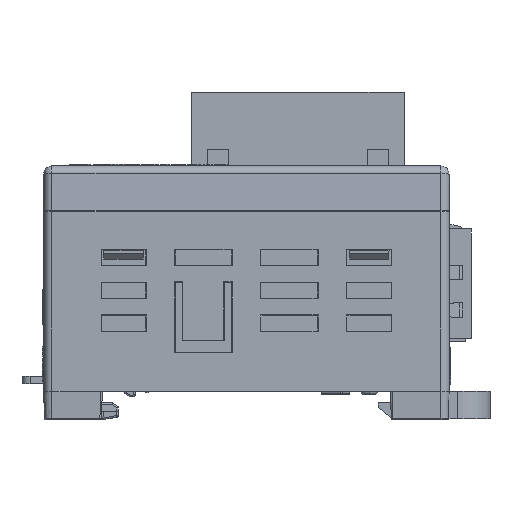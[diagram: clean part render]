
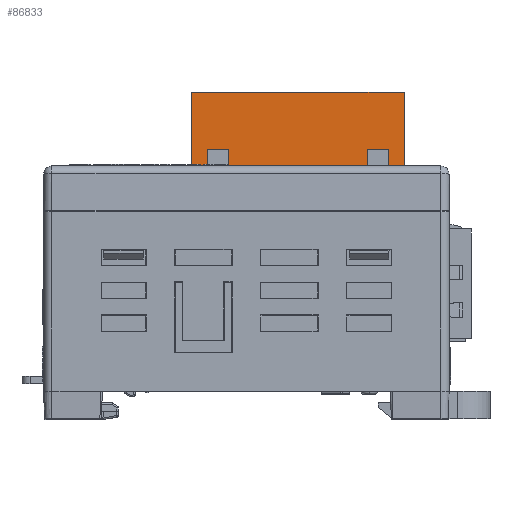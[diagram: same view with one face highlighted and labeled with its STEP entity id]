
A CAD part, left-side view. The second image highlights one B-rep face of the part: STEP entity #86833.
In plain terms, the highlighted planar face has unit normal (-1, 0, 0).
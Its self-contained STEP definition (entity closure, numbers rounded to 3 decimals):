
#495=DIRECTION('',(0.,0.,1.));
#496=VECTOR('',#495,12.5);
#497=CARTESIAN_POINT('',(-13.22,6.65,27.5));
#498=LINE('',#497,#496);
#1459=DIRECTION('',(0.,1.,0.));
#1460=VECTOR('',#1459,1.);
#1461=CARTESIAN_POINT('',(-13.22,-19.25,27.5));
#1462=LINE('',#1461,#1460);
#1475=DIRECTION('',(0.,1.,0.));
#1476=VECTOR('',#1475,1.);
#1477=CARTESIAN_POINT('',(-13.22,-13.3,27.5));
#1478=LINE('',#1477,#1476);
#1491=DIRECTION('',(0.,1.,0.));
#1492=VECTOR('',#1491,1.);
#1493=CARTESIAN_POINT('',(-13.22,-6.8,27.5));
#1494=LINE('',#1493,#1492);
#1507=DIRECTION('',(0.,1.,0.));
#1508=VECTOR('',#1507,1.);
#1509=CARTESIAN_POINT('',(-13.22,-0.3,27.5));
#1510=LINE('',#1509,#1508);
#1523=DIRECTION('',(0.,1.,0.));
#1524=VECTOR('',#1523,1.);
#1525=CARTESIAN_POINT('',(-13.22,5.65,27.5));
#1526=LINE('',#1525,#1524);
#8673=DIRECTION('',(0.,-1.,0.));
#8674=VECTOR('',#8673,0.9);
#8675=CARTESIAN_POINT('',(-13.22,-17.35,28.));
#8676=LINE('',#8675,#8674);
#8677=DIRECTION('',(0.,-1.,0.));
#8678=VECTOR('',#8677,2.6);
#8679=CARTESIAN_POINT('',(-13.22,-14.75,33.));
#8680=LINE('',#8679,#8678);
#8681=DIRECTION('',(0.,0.,1.));
#8682=VECTOR('',#8681,5.);
#8683=CARTESIAN_POINT('',(-13.22,-14.75,28.));
#8684=LINE('',#8683,#8682);
#8685=DIRECTION('',(0.,-1.,0.));
#8686=VECTOR('',#8685,1.45);
#8687=CARTESIAN_POINT('',(-13.22,-13.3,28.));
#8688=LINE('',#8687,#8686);
#8689=DIRECTION('',(0.,-1.,0.));
#8690=VECTOR('',#8689,5.5);
#8691=CARTESIAN_POINT('',(-13.22,-6.8,28.));
#8692=LINE('',#8691,#8690);
#8693=DIRECTION('',(0.,-1.,0.));
#8694=VECTOR('',#8693,5.5);
#8695=CARTESIAN_POINT('',(-13.22,-0.3,28.));
#8696=LINE('',#8695,#8694);
#8697=DIRECTION('',(0.,-1.,0.));
#8698=VECTOR('',#8697,1.45);
#8699=CARTESIAN_POINT('',(-13.22,2.15,28.));
#8700=LINE('',#8699,#8698);
#8701=DIRECTION('',(0.,-1.,0.));
#8702=VECTOR('',#8701,0.9);
#8703=CARTESIAN_POINT('',(-13.22,5.65,28.));
#8704=LINE('',#8703,#8702);
#8713=DIRECTION('',(0.,0.,1.));
#8714=VECTOR('',#8713,0.5);
#8715=CARTESIAN_POINT('',(-13.22,-18.25,27.5));
#8716=LINE('',#8715,#8714);
#8729=DIRECTION('',(0.,0.,-1.));
#8730=VECTOR('',#8729,12.5);
#8731=CARTESIAN_POINT('',(-13.22,-19.25,40.));
#8732=LINE('',#8731,#8730);
#9105=DIRECTION('',(0.,0.,-1.));
#9106=VECTOR('',#9105,5.);
#9107=CARTESIAN_POINT('',(-13.22,-17.35,33.));
#9108=LINE('',#9107,#9106);
#9441=DIRECTION('',(0.,0.,1.));
#9442=VECTOR('',#9441,5.);
#9443=CARTESIAN_POINT('',(-13.22,4.75,28.));
#9444=LINE('',#9443,#9442);
#9461=DIRECTION('',(0.,-1.,0.));
#9462=VECTOR('',#9461,2.6);
#9463=CARTESIAN_POINT('',(-13.22,4.75,33.));
#9464=LINE('',#9463,#9462);
#9469=DIRECTION('',(0.,0.,-1.));
#9470=VECTOR('',#9469,5.);
#9471=CARTESIAN_POINT('',(-13.22,2.15,33.));
#9472=LINE('',#9471,#9470);
#12565=DIRECTION('',(0.,-1.,0.));
#12566=VECTOR('',#12565,25.9);
#12567=CARTESIAN_POINT('',(-13.22,6.65,40.));
#12568=LINE('',#12567,#12566);
#12673=DIRECTION('',(0.,0.,-1.));
#12674=VECTOR('',#12673,0.5);
#12675=CARTESIAN_POINT('',(-13.22,-13.3,28.));
#12676=LINE('',#12675,#12674);
#12697=DIRECTION('',(0.,0.,1.));
#12698=VECTOR('',#12697,0.5);
#12699=CARTESIAN_POINT('',(-13.22,-12.3,27.5));
#12700=LINE('',#12699,#12698);
#12701=DIRECTION('',(0.,0.,-1.));
#12702=VECTOR('',#12701,0.5);
#12703=CARTESIAN_POINT('',(-13.22,-6.8,28.));
#12704=LINE('',#12703,#12702);
#12725=DIRECTION('',(0.,0.,1.));
#12726=VECTOR('',#12725,0.5);
#12727=CARTESIAN_POINT('',(-13.22,-5.8,27.5));
#12728=LINE('',#12727,#12726);
#12729=DIRECTION('',(0.,0.,-1.));
#12730=VECTOR('',#12729,0.5);
#12731=CARTESIAN_POINT('',(-13.22,-0.3,28.));
#12732=LINE('',#12731,#12730);
#12753=DIRECTION('',(0.,0.,1.));
#12754=VECTOR('',#12753,0.5);
#12755=CARTESIAN_POINT('',(-13.22,0.7,27.5));
#12756=LINE('',#12755,#12754);
#12757=DIRECTION('',(0.,0.,-1.));
#12758=VECTOR('',#12757,0.5);
#12759=CARTESIAN_POINT('',(-13.22,5.65,28.));
#12760=LINE('',#12759,#12758);
#60859=CARTESIAN_POINT('',(-13.22,-14.75,28.));
#60861=VERTEX_POINT('',#60859);
#60864=CARTESIAN_POINT('',(-13.22,-17.35,28.));
#60865=VERTEX_POINT('',#60864);
#60866=CARTESIAN_POINT('',(-13.22,-18.25,28.));
#60867=VERTEX_POINT('',#60866);
#60944=CARTESIAN_POINT('',(-13.22,5.65,28.));
#60945=VERTEX_POINT('',#60944);
#60946=CARTESIAN_POINT('',(-13.22,4.75,28.));
#60947=VERTEX_POINT('',#60946);
#60952=CARTESIAN_POINT('',(-13.22,2.15,28.));
#60953=VERTEX_POINT('',#60952);
#60954=CARTESIAN_POINT('',(-13.22,0.7,28.));
#60955=VERTEX_POINT('',#60954);
#60960=CARTESIAN_POINT('',(-13.22,-0.3,28.));
#60961=VERTEX_POINT('',#60960);
#60962=CARTESIAN_POINT('',(-13.22,-5.8,28.));
#60963=VERTEX_POINT('',#60962);
#60968=CARTESIAN_POINT('',(-13.22,-6.8,28.));
#60969=VERTEX_POINT('',#60968);
#60970=CARTESIAN_POINT('',(-13.22,-12.3,28.));
#60971=VERTEX_POINT('',#60970);
#60976=CARTESIAN_POINT('',(-13.22,-13.3,28.));
#60977=VERTEX_POINT('',#60976);
#61980=CARTESIAN_POINT('',(-13.22,-17.35,33.));
#61981=VERTEX_POINT('',#61980);
#61982=CARTESIAN_POINT('',(-13.22,-14.75,33.));
#61983=VERTEX_POINT('',#61982);
#61984=CARTESIAN_POINT('',(-13.22,2.15,33.));
#61985=VERTEX_POINT('',#61984);
#61986=CARTESIAN_POINT('',(-13.22,4.75,33.));
#61987=VERTEX_POINT('',#61986);
#61988=CARTESIAN_POINT('',(-13.22,6.65,40.));
#61989=CARTESIAN_POINT('',(-13.22,-19.25,40.));
#61990=VERTEX_POINT('',#61988);
#61991=VERTEX_POINT('',#61989);
#70600=CARTESIAN_POINT('',(-13.22,-19.25,27.5));
#70601=CARTESIAN_POINT('',(-13.22,-18.25,27.5));
#70602=VERTEX_POINT('',#70600);
#70603=VERTEX_POINT('',#70601);
#70604=CARTESIAN_POINT('',(-13.22,-13.3,27.5));
#70605=CARTESIAN_POINT('',(-13.22,-12.3,27.5));
#70606=VERTEX_POINT('',#70604);
#70607=VERTEX_POINT('',#70605);
#70608=CARTESIAN_POINT('',(-13.22,-6.8,27.5));
#70609=CARTESIAN_POINT('',(-13.22,-5.8,27.5));
#70610=VERTEX_POINT('',#70608);
#70611=VERTEX_POINT('',#70609);
#70612=CARTESIAN_POINT('',(-13.22,-0.3,27.5));
#70613=CARTESIAN_POINT('',(-13.22,0.7,27.5));
#70614=VERTEX_POINT('',#70612);
#70615=VERTEX_POINT('',#70613);
#70616=CARTESIAN_POINT('',(-13.22,5.65,27.5));
#70617=CARTESIAN_POINT('',(-13.22,6.65,27.5));
#70618=VERTEX_POINT('',#70616);
#70619=VERTEX_POINT('',#70617);
#86783=CARTESIAN_POINT('',(-13.22,-6.3,33.5));
#86784=DIRECTION('',(1.,0.,0.));
#86785=DIRECTION('',(0.,0.,-1.));
#86786=AXIS2_PLACEMENT_3D('',#86783,#86784,#86785);
#86787=PLANE('',#86786);
#86788=ORIENTED_EDGE('',*,*,#72840,.T.);
#86790=ORIENTED_EDGE('',*,*,#86789,.T.);
#86791=ORIENTED_EDGE('',*,*,#86115,.F.);
#86793=ORIENTED_EDGE('',*,*,#86792,.F.);
#86795=ORIENTED_EDGE('',*,*,#86794,.F.);
#86796=ORIENTED_EDGE('',*,*,#86765,.F.);
#86797=ORIENTED_EDGE('',*,*,#86226,.F.);
#86799=ORIENTED_EDGE('',*,*,#86798,.T.);
#86800=ORIENTED_EDGE('',*,*,#72850,.T.);
#86802=ORIENTED_EDGE('',*,*,#86801,.T.);
#86803=ORIENTED_EDGE('',*,*,#86218,.F.);
#86805=ORIENTED_EDGE('',*,*,#86804,.T.);
#86806=ORIENTED_EDGE('',*,*,#72860,.T.);
#86808=ORIENTED_EDGE('',*,*,#86807,.T.);
#86809=ORIENTED_EDGE('',*,*,#86210,.F.);
#86811=ORIENTED_EDGE('',*,*,#86810,.T.);
#86812=ORIENTED_EDGE('',*,*,#72870,.T.);
#86814=ORIENTED_EDGE('',*,*,#86813,.T.);
#86815=ORIENTED_EDGE('',*,*,#86202,.F.);
#86817=ORIENTED_EDGE('',*,*,#86816,.F.);
#86819=ORIENTED_EDGE('',*,*,#86818,.F.);
#86821=ORIENTED_EDGE('',*,*,#86820,.F.);
#86822=ORIENTED_EDGE('',*,*,#86194,.F.);
#86824=ORIENTED_EDGE('',*,*,#86823,.T.);
#86825=ORIENTED_EDGE('',*,*,#72880,.T.);
#86826=ORIENTED_EDGE('',*,*,#72025,.T.);
#86828=ORIENTED_EDGE('',*,*,#86827,.T.);
#86830=ORIENTED_EDGE('',*,*,#86829,.T.);
#86831=EDGE_LOOP('',(#86788,#86790,#86791,#86793,#86795,#86796,#86797,#86799,
#86800,#86802,#86803,#86805,#86806,#86808,#86809,#86811,#86812,#86814,#86815,
#86817,#86819,#86821,#86822,#86824,#86825,#86826,#86828,#86830));
#86832=FACE_OUTER_BOUND('',#86831,.F.);
#86833=ADVANCED_FACE('',(#86832),#86787,.F.);
#72025=EDGE_CURVE('',#70619,#61990,#498,.T.);
#72840=EDGE_CURVE('',#70602,#70603,#1462,.T.);
#72850=EDGE_CURVE('',#70606,#70607,#1478,.T.);
#72860=EDGE_CURVE('',#70610,#70611,#1494,.T.);
#72870=EDGE_CURVE('',#70614,#70615,#1510,.T.);
#72880=EDGE_CURVE('',#70618,#70619,#1526,.T.);
#86115=EDGE_CURVE('',#60865,#60867,#8676,.T.);
#86194=EDGE_CURVE('',#60945,#60947,#8704,.T.);
#86202=EDGE_CURVE('',#60953,#60955,#8700,.T.);
#86210=EDGE_CURVE('',#60961,#60963,#8696,.T.);
#86218=EDGE_CURVE('',#60969,#60971,#8692,.T.);
#86226=EDGE_CURVE('',#60977,#60861,#8688,.T.);
#86765=EDGE_CURVE('',#60861,#61983,#8684,.T.);
#86789=EDGE_CURVE('',#70603,#60867,#8716,.T.);
#86792=EDGE_CURVE('',#61981,#60865,#9108,.T.);
#86794=EDGE_CURVE('',#61983,#61981,#8680,.T.);
#86798=EDGE_CURVE('',#60977,#70606,#12676,.T.);
#86801=EDGE_CURVE('',#70607,#60971,#12700,.T.);
#86804=EDGE_CURVE('',#60969,#70610,#12704,.T.);
#86807=EDGE_CURVE('',#70611,#60963,#12728,.T.);
#86810=EDGE_CURVE('',#60961,#70614,#12732,.T.);
#86813=EDGE_CURVE('',#70615,#60955,#12756,.T.);
#86816=EDGE_CURVE('',#61985,#60953,#9472,.T.);
#86818=EDGE_CURVE('',#61987,#61985,#9464,.T.);
#86820=EDGE_CURVE('',#60947,#61987,#9444,.T.);
#86823=EDGE_CURVE('',#60945,#70618,#12760,.T.);
#86827=EDGE_CURVE('',#61990,#61991,#12568,.T.);
#86829=EDGE_CURVE('',#61991,#70602,#8732,.T.);
